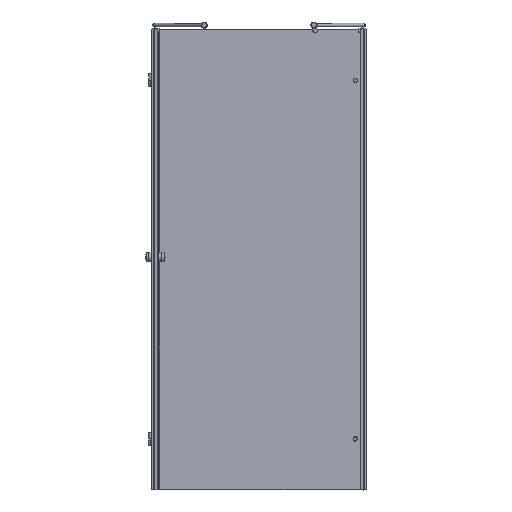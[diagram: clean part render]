
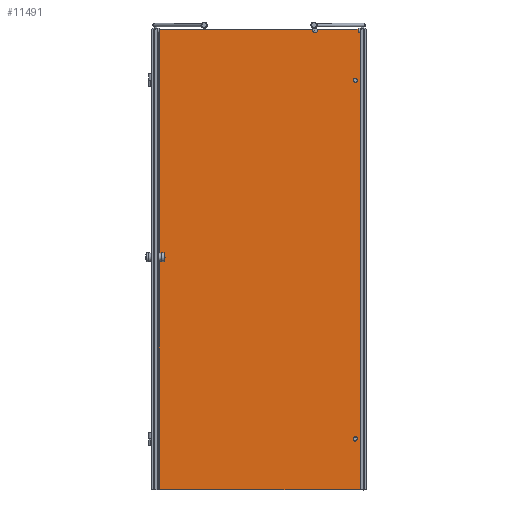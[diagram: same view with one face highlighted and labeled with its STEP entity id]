
A CAD part, left-side view. The second image highlights one B-rep face of the part: STEP entity #11491.
In plain terms, the highlighted planar face has unit normal (-1, 0, 0).
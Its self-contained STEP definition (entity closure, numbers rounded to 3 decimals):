
#138=LINE($,#16747,#1272);
#146=LINE($,#16771,#1280);
#155=LINE($,#16800,#1289);
#726=LINE($,#18710,#1860);
#727=LINE($,#18711,#1861);
#728=LINE($,#18713,#1862);
#729=LINE($,#18715,#1863);
#730=LINE($,#18717,#1864);
#731=LINE($,#18718,#1865);
#732=LINE($,#18720,#1866);
#733=LINE($,#18722,#1867);
#734=LINE($,#18723,#1868);
#1272=VECTOR($,#13132,632.908);
#1280=VECTOR($,#13150,177.056);
#1289=VECTOR($,#13171,11.112);
#1860=VECTOR($,#14650,1898.);
#1861=VECTOR($,#14651,1.419);
#1862=VECTOR($,#14652,0.019);
#1863=VECTOR($,#14653,1.);
#1864=VECTOR($,#14654,840.4);
#1865=VECTOR($,#14655,1901.);
#1866=VECTOR($,#14656,1900.);
#1867=VECTOR($,#14657,2.063);
#1868=VECTOR($,#14658,1900.);
#2481=FACE_BOUND($,#3697,.T.);
#2482=FACE_BOUND($,#3698,.T.);
#2986=FACE_OUTER_BOUND($,#3696,.T.);
#3696=EDGE_LOOP($,(#8528,#8529,#8530,#8531,#8532,#8533,#8534,#8535,#8536,
#8537,#8538,#8539,#8540,#8541));
#3697=EDGE_LOOP($,(#8542));
#3698=EDGE_LOOP($,(#8543));
#4059=CIRCLE($,#11874,10.);
#4124=CIRCLE($,#11971,9.);
#4136=CIRCLE($,#12001,9.);
#4230=CIRCLE($,#12320,2.);
#4459=VERTEX_POINT($,#16385);
#4460=VERTEX_POINT($,#16387);
#4541=VERTEX_POINT($,#16745);
#4552=VERTEX_POINT($,#16770);
#4565=VERTEX_POINT($,#16797);
#4566=VERTEX_POINT($,#16799);
#4610=VERTEX_POINT($,#17097);
#4634=VERTEX_POINT($,#17171);
#5017=VERTEX_POINT($,#18432);
#5018=VERTEX_POINT($,#18433);
#5070=VERTEX_POINT($,#18709);
#5071=VERTEX_POINT($,#18712);
#5072=VERTEX_POINT($,#18714);
#5073=VERTEX_POINT($,#18716);
#5074=VERTEX_POINT($,#18719);
#5075=VERTEX_POINT($,#18721);
#5461=EDGE_CURVE($,#4459,#4460,#4059,.T.);
#5549=EDGE_CURVE($,#4459,#4541,#138,.T.);
#5561=EDGE_CURVE($,#4552,#4460,#146,.T.);
#5576=EDGE_CURVE($,#4566,#4565,#155,.T.);
#5629=EDGE_CURVE($,#4610,#4610,#4124,.T.);
#5661=EDGE_CURVE($,#4634,#4634,#4136,.T.);
#6242=EDGE_CURVE($,#5017,#5018,#4230,.T.);
#6335=EDGE_CURVE($,#4541,#5070,#726,.T.);
#6336=EDGE_CURVE($,#5070,#5018,#727,.T.);
#6337=EDGE_CURVE($,#5071,#5017,#728,.T.);
#6338=EDGE_CURVE($,#5072,#5071,#729,.T.);
#6339=EDGE_CURVE($,#5072,#5073,#730,.T.);
#6340=EDGE_CURVE($,#5073,#4566,#731,.T.);
#6341=EDGE_CURVE($,#5074,#4565,#732,.T.);
#6342=EDGE_CURVE($,#5075,#5074,#733,.T.);
#6343=EDGE_CURVE($,#4552,#5075,#734,.T.);
#8528=ORIENTED_EDGE($,*,*,#5461,.F.);
#8529=ORIENTED_EDGE($,*,*,#5549,.T.);
#8530=ORIENTED_EDGE($,*,*,#6335,.T.);
#8531=ORIENTED_EDGE($,*,*,#6336,.T.);
#8532=ORIENTED_EDGE($,*,*,#6242,.F.);
#8533=ORIENTED_EDGE($,*,*,#6337,.F.);
#8534=ORIENTED_EDGE($,*,*,#6338,.F.);
#8535=ORIENTED_EDGE($,*,*,#6339,.T.);
#8536=ORIENTED_EDGE($,*,*,#6340,.T.);
#8537=ORIENTED_EDGE($,*,*,#5576,.T.);
#8538=ORIENTED_EDGE($,*,*,#6341,.F.);
#8539=ORIENTED_EDGE($,*,*,#6342,.F.);
#8540=ORIENTED_EDGE($,*,*,#6343,.F.);
#8541=ORIENTED_EDGE($,*,*,#5561,.T.);
#8542=ORIENTED_EDGE($,*,*,#5629,.F.);
#8543=ORIENTED_EDGE($,*,*,#5661,.F.);
#10273=PLANE($,#12389);
#11491=ADVANCED_FACE($,(#2986,#2481,#2482),#10273,.F.);
#11874=AXIS2_PLACEMENT_3D($,#16388,#12987,#12988);
#11971=AXIS2_PLACEMENT_3D($,#17098,#13264,#13265);
#12001=AXIS2_PLACEMENT_3D($,#17172,#13344,#13345);
#12320=AXIS2_PLACEMENT_3D($,#18434,#14459,#14460);
#12389=AXIS2_PLACEMENT_3D($,#18708,#14648,#14649);
#12987=DIRECTION('center_axis',(-1.,0.,0.));
#12988=DIRECTION('ref_axis',(0.,0.947,-0.322));
#13132=DIRECTION($,(0.,1.,0.));
#13150=DIRECTION($,(0.,1.,0.));
#13171=DIRECTION($,(0.,1.,0.));
#13264=DIRECTION('center_axis',(-1.,0.,0.));
#13265=DIRECTION('ref_axis',(0.,1.,0.));
#13344=DIRECTION('center_axis',(-1.,0.,0.));
#13345=DIRECTION('ref_axis',(0.,1.,0.));
#14459=DIRECTION('center_axis',(-1.,0.,0.));
#14460=DIRECTION('ref_axis',(0.,-0.707,
0.707));
#14648=DIRECTION('center_axis',(1.,0.,0.));
#14649=DIRECTION('ref_axis',(0.,1.,0.));
#14650=DIRECTION($,(0.,0.,-1.));
#14651=DIRECTION($,(0.,1.,0.));
#14652=DIRECTION($,(0.,1.,0.));
#14653=DIRECTION($,(0.,0.,1.));
#14654=DIRECTION($,(0.,-1.,0.));
#14655=DIRECTION($,(0.,0.,1.));
#14656=DIRECTION($,(0.,0.,1.));
#14657=DIRECTION($,(0.,-1.,0.));
#14658=DIRECTION($,(0.,0.,-1.));
#16385=CARTESIAN_POINT('',(1772.,-884.952,1385.944));
#16387=CARTESIAN_POINT('',(1772.,-902.813,1385.944));
#16388=CARTESIAN_POINT('Origin',(1772.,-893.883,1381.444));
#16745=CARTESIAN_POINT('',(1772.,-252.044,1385.944));
#16747=CARTESIAN_POINT($,(1772.,-1093.044,1385.944));
#16770=CARTESIAN_POINT('',(1772.,-1079.869,1385.944));
#16771=CARTESIAN_POINT($,(1772.,-1093.044,1385.944));
#16797=CARTESIAN_POINT('',(1772.,-1081.932,1385.944));
#16799=CARTESIAN_POINT('',(1772.,-1093.044,1385.944));
#16800=CARTESIAN_POINT($,(1772.,-1093.044,1385.944));
#17097=CARTESIAN_POINT('',(1772.,-1069.044,-304.056));
#17098=CARTESIAN_POINT('Origin',(1772.,-1060.044,-304.056));
#17171=CARTESIAN_POINT('',(1772.,-1069.044,1175.944));
#17172=CARTESIAN_POINT('Origin',(1772.,-1060.044,1175.944));
#18432=CARTESIAN_POINT('',(1772.,-252.625,-514.056));
#18433=CARTESIAN_POINT('',(1772.,-250.625,-512.056));
#18434=CARTESIAN_POINT('Origin',(1772.,-250.625,-514.056));
#18708=CARTESIAN_POINT('Origin',(1772.,-1093.044,-514.056));
#18709=CARTESIAN_POINT('',(1772.,-252.044,-512.056));
#18710=CARTESIAN_POINT($,(1772.,-252.044,435.944));
#18711=CARTESIAN_POINT($,(1772.,-670.994,-512.056));
#18712=CARTESIAN_POINT('',(1772.,-252.644,-514.056));
#18713=CARTESIAN_POINT($,(1772.,-1093.044,-514.056));
#18714=CARTESIAN_POINT('',(1772.,-252.644,-515.056));
#18715=CARTESIAN_POINT($,(1772.,-252.644,-515.056));
#18716=CARTESIAN_POINT('',(1772.,-1093.044,-515.056));
#18717=CARTESIAN_POINT($,(1772.,-252.644,-515.056));
#18718=CARTESIAN_POINT($,(1772.,-1093.044,-515.056));
#18719=CARTESIAN_POINT('',(1772.,-1081.932,-514.056));
#18720=CARTESIAN_POINT($,(1772.,-1081.932,1385.944));
#18721=CARTESIAN_POINT('',(1772.,-1079.869,-514.056));
#18722=CARTESIAN_POINT($,(1772.,-1090.544,-514.056));
#18723=CARTESIAN_POINT($,(1772.,-1079.869,1385.944));
